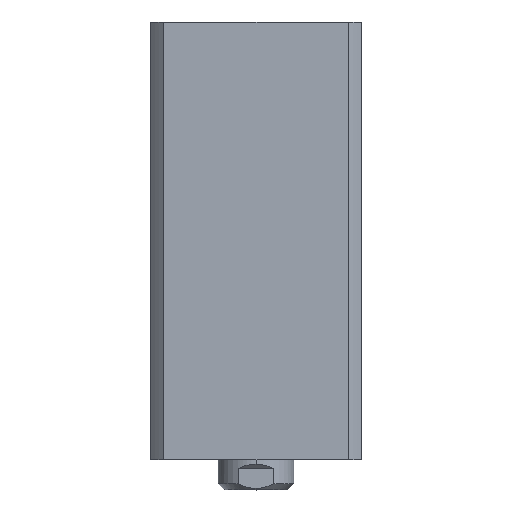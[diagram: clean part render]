
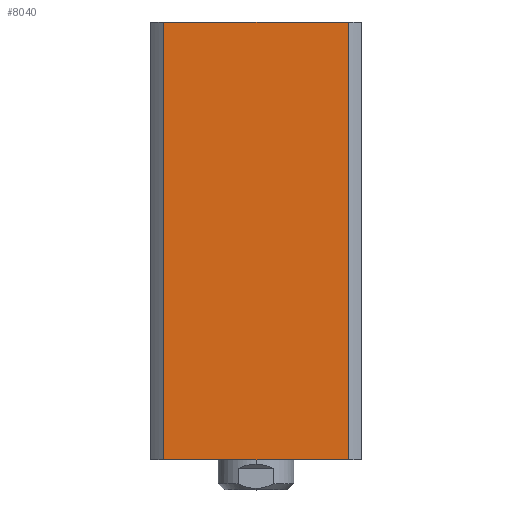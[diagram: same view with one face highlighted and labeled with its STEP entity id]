
A CAD part, top view. The second image highlights one B-rep face of the part: STEP entity #8040.
In plain terms, the highlighted planar face has unit normal (0, 0, 1) as drawn and (1, 0, 0) by its records, which use the part's own axes.
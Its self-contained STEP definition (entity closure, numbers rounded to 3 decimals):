
#165 = LINE ( 'NONE', #6008, #1741 ) ;
#314 = CARTESIAN_POINT ( 'NONE',  ( 35., 35., 0. ) ) ;
#750 = CARTESIAN_POINT ( 'NONE',  ( 35., 30.615, 300. ) ) ;
#838 = CARTESIAN_POINT ( 'NONE',  ( 35., -30.615, 300. ) ) ;
#1182 = VERTEX_POINT ( 'NONE', #5635 ) ;
#1468 = DIRECTION ( 'NONE',  ( 0., 0., -1. ) ) ;
#1598 = ORIENTED_EDGE ( 'NONE', *, *, #8281, .F. ) ;
#1741 = VECTOR ( 'NONE', #6787, 1000. ) ;
#1800 = DIRECTION ( 'NONE',  ( 0., 0., 1. ) ) ;
#1930 = EDGE_LOOP ( 'NONE', ( #6604, #1598, #2939, #9976 ) ) ;
#2554 = PLANE ( 'NONE',  #3069 ) ;
#2718 = LINE ( 'NONE', #750, #8682 ) ;
#2939 = ORIENTED_EDGE ( 'NONE', *, *, #9115, .F. ) ;
#3069 = AXIS2_PLACEMENT_3D ( 'NONE', #4921, #6491, #1800 ) ;
#3719 = VERTEX_POINT ( 'NONE', #5291 ) ;
#4152 = CARTESIAN_POINT ( 'NONE',  ( 35., 30.615, 145. ) ) ;
#4802 = VECTOR ( 'NONE', #5524, 1000. ) ;
#4896 = VERTEX_POINT ( 'NONE', #4152 ) ;
#4921 = CARTESIAN_POINT ( 'NONE',  ( 35., 35., 145. ) ) ;
#5291 = CARTESIAN_POINT ( 'NONE',  ( 35., -30.615, 0. ) ) ;
#5354 = VERTEX_POINT ( 'NONE', #9722 ) ;
#5524 = DIRECTION ( 'NONE',  ( 0., 0., 1. ) ) ;
#5635 = CARTESIAN_POINT ( 'NONE',  ( 35., 30.615, 0. ) ) ;
#5778 = DIRECTION ( 'NONE',  ( 0., 1., 0. ) ) ;
#6008 = CARTESIAN_POINT ( 'NONE',  ( 35., 35., 145. ) ) ;
#6403 = FACE_OUTER_BOUND ( 'NONE', #1930, .T. ) ;
#6491 = DIRECTION ( 'NONE',  ( -1., 0., 0. ) ) ;
#6604 = ORIENTED_EDGE ( 'NONE', *, *, #7958, .F. ) ;
#6748 = VECTOR ( 'NONE', #5778, 1000. ) ;
#6787 = DIRECTION ( 'NONE',  ( 0., 1., 0. ) ) ;
#6869 = LINE ( 'NONE', #838, #4802 ) ;
#7958 = EDGE_CURVE ( 'NONE', #4896, #1182, #2718, .T. ) ;
#8040 = ADVANCED_FACE ( 'NONE', ( #6403 ), #2554, .F. ) ;
#8281 = EDGE_CURVE ( 'NONE', #5354, #4896, #165, .T. ) ;
#8682 = VECTOR ( 'NONE', #1468, 1000. ) ;
#8779 = LINE ( 'NONE', #314, #6748 ) ;
#9115 = EDGE_CURVE ( 'NONE', #3719, #5354, #6869, .T. ) ;
#9453 = EDGE_CURVE ( 'NONE', #3719, #1182, #8779, .T. ) ;
#9722 = CARTESIAN_POINT ( 'NONE',  ( 35., -30.615, 145. ) ) ;
#9976 = ORIENTED_EDGE ( 'NONE', *, *, #9453, .T. ) ;
